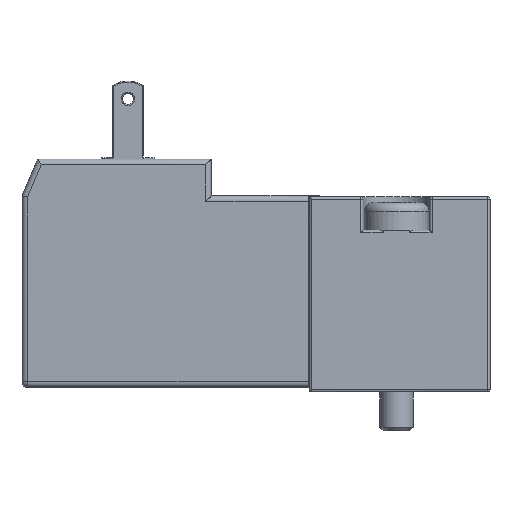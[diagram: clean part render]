
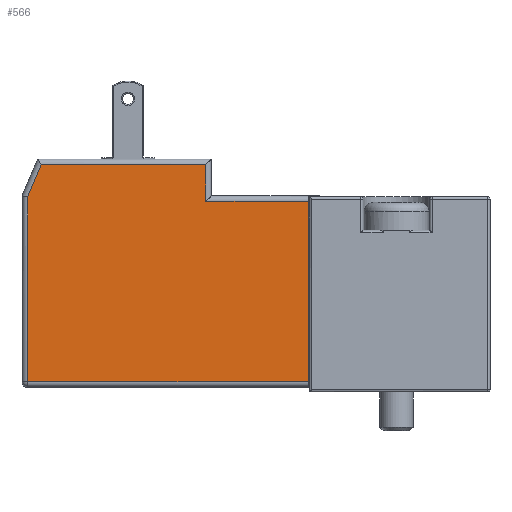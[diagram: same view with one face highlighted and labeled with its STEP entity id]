
A CAD part, left-side view. The second image highlights one B-rep face of the part: STEP entity #566.
In plain terms, the highlighted planar face has unit normal (-1, 0, 0).
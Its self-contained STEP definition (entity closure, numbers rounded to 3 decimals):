
#566 = ADVANCED_FACE( '', ( #1151 ), #1152, .F. );
#1151 = FACE_OUTER_BOUND( '', #1747, .T. );
#1152 = PLANE( '', #1748 );
#1747 = EDGE_LOOP( '', ( #3116, #3117, #3118, #3119, #3120, #3121, #3122 ) );
#1748 = AXIS2_PLACEMENT_3D( '', #3123, #3124, #3125 );
#3116 = ORIENTED_EDGE( '', *, *, #3670, .T. );
#3117 = ORIENTED_EDGE( '', *, *, #3931, .T. );
#3118 = ORIENTED_EDGE( '', *, *, #3464, .T. );
#3119 = ORIENTED_EDGE( '', *, *, #3780, .T. );
#3120 = ORIENTED_EDGE( '', *, *, #3790, .T. );
#3121 = ORIENTED_EDGE( '', *, *, #3735, .T. );
#3122 = ORIENTED_EDGE( '', *, *, #3556, .T. );
#3123 = CARTESIAN_POINT( '', ( 0., 25.7, 0. ) );
#3124 = DIRECTION( '', ( 1., 0., 0. ) );
#3125 = DIRECTION( '', ( 0., 0., -1. ) );
#3464 = EDGE_CURVE( '', #4115, #4113, #4116, .T. );
#3556 = EDGE_CURVE( '', #4261, #4266, #4268, .T. );
#3670 = EDGE_CURVE( '', #4266, #4444, #4446, .F. );
#3735 = EDGE_CURVE( '', #4539, #4261, #4541, .T. );
#3780 = EDGE_CURVE( '', #4113, #4605, #4607, .F. );
#3790 = EDGE_CURVE( '', #4605, #4539, #4618, .T. );
#3931 = EDGE_CURVE( '', #4444, #4115, #4782, .T. );
#4113 = VERTEX_POINT( '', #5014 );
#4115 = VERTEX_POINT( '', #5016 );
#4116 = LINE( '', #5017, #5018 );
#4261 = VERTEX_POINT( '', #5226 );
#4266 = VERTEX_POINT( '', #5232 );
#4268 = LINE( '', #5234, #5235 );
#4444 = VERTEX_POINT( '', #5512 );
#4446 = LINE( '', #5514, #5515 );
#4539 = VERTEX_POINT( '', #5643 );
#4541 = LINE( '', #5645, #5646 );
#4605 = VERTEX_POINT( '', #5735 );
#4607 = LINE( '', #5737, #5738 );
#4618 = LINE( '', #5752, #5753 );
#4782 = LINE( '', #6018, #6019 );
#5014 = CARTESIAN_POINT( '', ( 0., 0., 16.7 ) );
#5016 = CARTESIAN_POINT( '', ( 0., 0., 0.5 ) );
#5017 = CARTESIAN_POINT( '', ( 0., 0., 0. ) );
#5018 = VECTOR( '', #6171, 1000. );
#5226 = CARTESIAN_POINT( '', ( 0., 23.969, 20. ) );
#5232 = CARTESIAN_POINT( '', ( 0., 25.2, 17.098 ) );
#5234 = CARTESIAN_POINT( '', ( 0., 25.24, 17.005 ) );
#5235 = VECTOR( '', #6291, 1000. );
#5512 = CARTESIAN_POINT( '', ( 0., 25.2, 0.5 ) );
#5514 = CARTESIAN_POINT( '', ( 0., 25.2, 0. ) );
#5515 = VECTOR( '', #6414, 1000. );
#5643 = CARTESIAN_POINT( '', ( 0., 9.2, 20. ) );
#5645 = CARTESIAN_POINT( '', ( 0., 24.3, 20. ) );
#5646 = VECTOR( '', #6498, 1000. );
#5735 = CARTESIAN_POINT( '', ( 0., 9.2, 16.7 ) );
#5737 = CARTESIAN_POINT( '', ( 0., 25.7, 16.7 ) );
#5738 = VECTOR( '', #6548, 1000. );
#5752 = CARTESIAN_POINT( '', ( 0., 9.2, 20.5 ) );
#5753 = VECTOR( '', #6558, 1000. );
#6018 = CARTESIAN_POINT( '', ( 0., 25.7, 0.5 ) );
#6019 = VECTOR( '', #6672, 1000. );
#6171 = DIRECTION( '', ( 0., 0., 1. ) );
#6291 = DIRECTION( '', ( 0., 0.391, -0.921 ) );
#6414 = DIRECTION( '', ( 0., 0., 1. ) );
#6498 = DIRECTION( '', ( 0., 1., 0. ) );
#6548 = DIRECTION( '', ( 0., -1., 0. ) );
#6558 = DIRECTION( '', ( 0., 0., 1. ) );
#6672 = DIRECTION( '', ( 0., -1., 0. ) );
